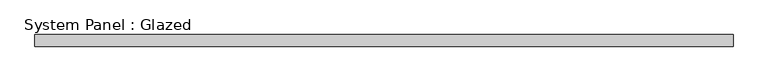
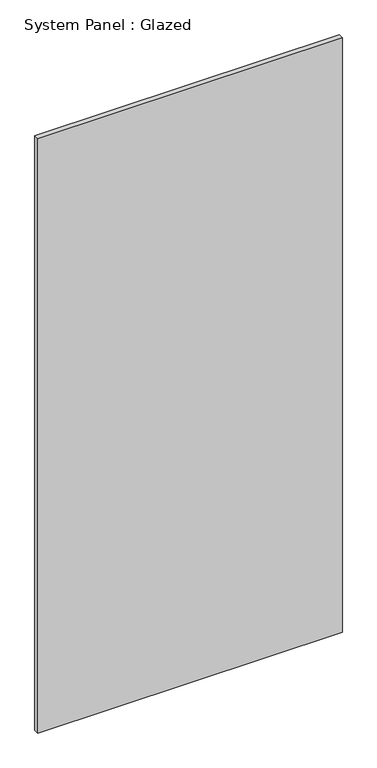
"""IFC4 building model written with IfcOpenShell, lengths in millimetres: plate geometry, System Panel : Glazed."""

from ifc_helpers import new_model, si_unit, origin, origin_with_axes, place, context, project, spatial, polyline, outline, extrude, source, transform, mapped, element, save


def system_panel_glazed_01975426(model_context):
    return source(origin(), model_context, "Body", "SweptSolid", [
        extrude(outline(polyline([(738.895233, -44.45), (-738.895233, -44.45), (-738.895233, -19.05), (738.895233, -19.05), (738.895233, -44.45)])), origin_with_axes(), (0.0, 0.0, 1.0), 3048.0),
    ])


if __name__ == "__main__":
    model = new_model("IFC4")
    model_context = context("Model", 3, world=origin())
    ifc_project = project(units=[si_unit("LENGTHUNIT", "METRE", prefix="MILLI")], contexts=[model_context])
    site = spatial("IfcSite", under=ifc_project)
    building = spatial("IfcBuilding", under=site)
    placement = place(None, origin())
    system_panel_glazed_shape = system_panel_glazed_01975426(model_context)
    element("IfcPlate", 1, ObjectType="System Panel : Glazed", at=placement, inside=building, context=model_context, shape_type="MappedRepresentation", body=[
        mapped(system_panel_glazed_shape, transform((0.0, 0.0, 0.0), x_axis=(1.0, 0.0, 0.0), y_axis=(0.0, 1.0, 0.0), z_axis=(0.0, 0.0, 1.0))),
    ])
    save(model, "model.ifc")
